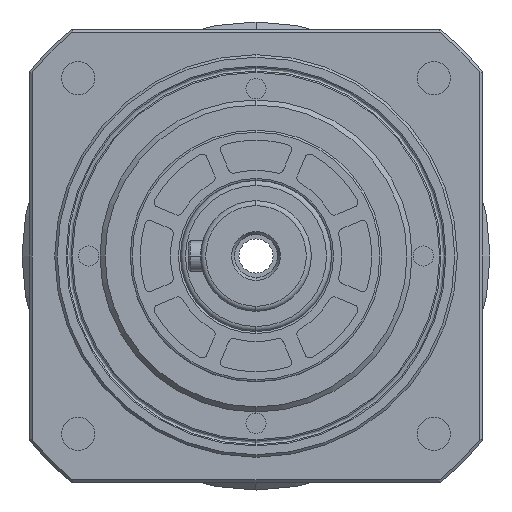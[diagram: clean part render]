
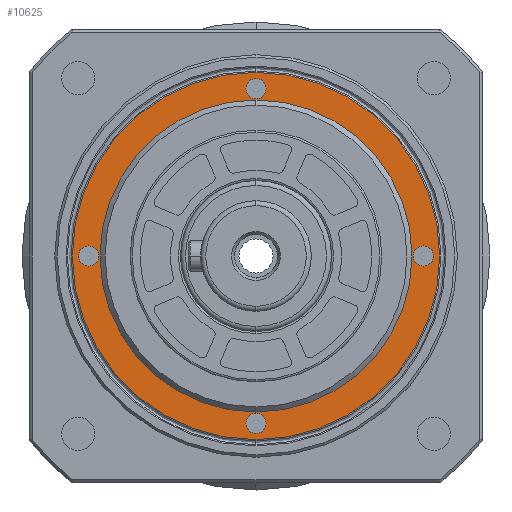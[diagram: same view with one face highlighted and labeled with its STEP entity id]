
A CAD part, left-side view. The second image highlights one B-rep face of the part: STEP entity #10625.
In plain terms, the highlighted planar face has unit normal (-1, 0, 0).
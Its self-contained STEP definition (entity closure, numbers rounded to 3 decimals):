
#64 = CIRCLE ( 'NONE', #9296, 36.5 ) ;
#65 = CIRCLE ( 'NONE', #9295, 2. ) ;
#70 = CIRCLE ( 'NONE', #9293, 2. ) ;
#71 = CIRCLE ( 'NONE', #9292, 2. ) ;
#73 = CIRCLE ( 'NONE', #9290, 2. ) ;
#162 = CIRCLE ( 'NONE', #9301, 31. ) ;
#539 = ORIENTED_EDGE ( 'NONE', *, *, #14506, .F. ) ;
#540 = ORIENTED_EDGE ( 'NONE', *, *, #14944, .F. ) ;
#541 = ORIENTED_EDGE ( 'NONE', *, *, #14503, .F. ) ;
#542 = ORIENTED_EDGE ( 'NONE', *, *, #14957, .F. ) ;
#543 = ORIENTED_EDGE ( 'NONE', *, *, #14504, .F. ) ;
#544 = ORIENTED_EDGE ( 'NONE', *, *, #14940, .F. ) ;
#545 = ORIENTED_EDGE ( 'NONE', *, *, #14501, .F. ) ;
#546 = ORIENTED_EDGE ( 'NONE', *, *, #14961, .F. ) ;
#547 = ORIENTED_EDGE ( 'NONE', *, *, #14500, .T. ) ;
#548 = ORIENTED_EDGE ( 'NONE', *, *, #14963, .T. ) ;
#549 = ORIENTED_EDGE ( 'NONE', *, *, #14493, .T. ) ;
#550 = ORIENTED_EDGE ( 'NONE', *, *, #14969, .T. ) ;
#1782 = PLANE ( 'NONE',  #9510 ) ;
#1785 = CARTESIAN_POINT ( 'NONE',  ( 37.675, 33.422, 0. ) ) ;
#1787 = DIRECTION ( 'NONE',  ( -1., 0., 0. ) ) ;
#1789 = DIRECTION ( 'NONE',  ( 0., 0., 1. ) ) ;
#2829 = DIRECTION ( 'NONE',  ( -1., 0., 0. ) ) ;
#2830 = CARTESIAN_POINT ( 'NONE',  ( 37.675, 35.672, 0. ) ) ;
#2835 = DIRECTION ( 'NONE',  ( 0., 0., 1. ) ) ;
#2843 = DIRECTION ( 'NONE',  ( 0., 0., 1. ) ) ;
#2845 = DIRECTION ( 'NONE',  ( -1., 0., 0. ) ) ;
#2846 = CARTESIAN_POINT ( 'NONE',  ( 37.675, -30.828, 0. ) ) ;
#2847 = CARTESIAN_POINT ( 'NONE',  ( 37.675, 2.422, 0. ) ) ;
#2848 = DIRECTION ( 'NONE',  ( -1., 0., 0. ) ) ;
#2849 = DIRECTION ( 'NONE',  ( 0., 0., 1. ) ) ;
#2851 = CARTESIAN_POINT ( 'NONE',  ( 37.675, 2.422, -33.25 ) ) ;
#2852 = DIRECTION ( 'NONE',  ( 0., 0., 1. ) ) ;
#2855 = DIRECTION ( 'NONE',  ( -1., 0., 0. ) ) ;
#2858 = CARTESIAN_POINT ( 'NONE',  ( 37.675, 2.422, 33.25 ) ) ;
#2859 = DIRECTION ( 'NONE',  ( -1., 0., 0. ) ) ;
#2860 = DIRECTION ( 'NONE',  ( 0., 0., 1. ) ) ;
#2879 = DIRECTION ( 'NONE',  ( 0., 0., -1. ) ) ;
#2881 = DIRECTION ( 'NONE',  ( 1., 0., 0. ) ) ;
#2883 = CARTESIAN_POINT ( 'NONE',  ( 37.675, 2.422, 0. ) ) ;
#3136 = FACE_BOUND ( 'NONE', #11335, .T. ) ;
#3141 = FACE_BOUND ( 'NONE', #11064, .T. ) ;
#3143 = FACE_BOUND ( 'NONE', #11049, .T. ) ;
#3144 = FACE_OUTER_BOUND ( 'NONE', #11034, .T. ) ;
#3146 = FACE_BOUND ( 'NONE', #10647, .T. ) ;
#3147 = FACE_BOUND ( 'NONE', #11342, .T. ) ;
#3768 = CARTESIAN_POINT ( 'NONE',  ( 37.675, 2.422, -31.25 ) ) ;
#3835 = CARTESIAN_POINT ( 'NONE',  ( 37.675, 2.422, 35.25 ) ) ;
#3905 = CARTESIAN_POINT ( 'NONE',  ( 37.675, 35.672, -2. ) ) ;
#4072 = CARTESIAN_POINT ( 'NONE',  ( 37.675, 2.422, 31. ) ) ;
#4228 = CIRCLE ( 'NONE', #9086, 31. ) ;
#4260 = CIRCLE ( 'NONE', #9090, 36.5 ) ;
#4263 = CIRCLE ( 'NONE', #9096, 2. ) ;
#4274 = CIRCLE ( 'NONE', #9091, 2. ) ;
#4283 = CIRCLE ( 'NONE', #9093, 2. ) ;
#4330 = CIRCLE ( 'NONE', #9094, 2. ) ;
#7016 = VERTEX_POINT ( 'NONE', #4072 ) ;
#7159 = VERTEX_POINT ( 'NONE', #3835 ) ;
#7213 = VERTEX_POINT ( 'NONE', #3905 ) ;
#7255 = VERTEX_POINT ( 'NONE', #3768 ) ;
#7314 = VERTEX_POINT ( 'NONE', #14215 ) ;
#7324 = VERTEX_POINT ( 'NONE', #14204 ) ;
#7326 = VERTEX_POINT ( 'NONE', #14206 ) ;
#7385 = VERTEX_POINT ( 'NONE', #14160 ) ;
#7404 = VERTEX_POINT ( 'NONE', #14144 ) ;
#7440 = VERTEX_POINT ( 'NONE', #13964 ) ;
#7456 = VERTEX_POINT ( 'NONE', #13960 ) ;
#7540 = VERTEX_POINT ( 'NONE', #13939 ) ;
#9086 = AXIS2_PLACEMENT_3D ( 'NONE', #9952, #9954, #9957 ) ;
#9090 = AXIS2_PLACEMENT_3D ( 'NONE', #9992, #9980, #9976 ) ;
#9091 = AXIS2_PLACEMENT_3D ( 'NONE', #10018, #10023, #10022 ) ;
#9093 = AXIS2_PLACEMENT_3D ( 'NONE', #10042, #10048, #10049 ) ;
#9094 = AXIS2_PLACEMENT_3D ( 'NONE', #10188, #10190, #10177 ) ;
#9096 = AXIS2_PLACEMENT_3D ( 'NONE', #10062, #10191, #10178 ) ;
#9290 = AXIS2_PLACEMENT_3D ( 'NONE', #2830, #2829, #2835 ) ;
#9292 = AXIS2_PLACEMENT_3D ( 'NONE', #2846, #2845, #2843 ) ;
#9293 = AXIS2_PLACEMENT_3D ( 'NONE', #2858, #2859, #2860 ) ;
#9295 = AXIS2_PLACEMENT_3D ( 'NONE', #2851, #2855, #2852 ) ;
#9296 = AXIS2_PLACEMENT_3D ( 'NONE', #2847, #2848, #2849 ) ;
#9301 = AXIS2_PLACEMENT_3D ( 'NONE', #2883, #2881, #2879 ) ;
#9510 = AXIS2_PLACEMENT_3D ( 'NONE', #1785, #1787, #1789 ) ;
#9952 = CARTESIAN_POINT ( 'NONE',  ( 37.675, 2.422, 0. ) ) ;
#9954 = DIRECTION ( 'NONE',  ( 1., 0., 0. ) ) ;
#9957 = DIRECTION ( 'NONE',  ( 0., 0., -1. ) ) ;
#9976 = DIRECTION ( 'NONE',  ( 0., 0., 1. ) ) ;
#9980 = DIRECTION ( 'NONE',  ( -1., 0., 0. ) ) ;
#9992 = CARTESIAN_POINT ( 'NONE',  ( 37.675, 2.422, 0. ) ) ;
#10018 = CARTESIAN_POINT ( 'NONE',  ( 37.675, 2.422, -33.25 ) ) ;
#10022 = DIRECTION ( 'NONE',  ( 0., 0., 1. ) ) ;
#10023 = DIRECTION ( 'NONE',  ( -1., 0., 0. ) ) ;
#10042 = CARTESIAN_POINT ( 'NONE',  ( 37.675, 2.422, 33.25 ) ) ;
#10048 = DIRECTION ( 'NONE',  ( -1., 0., 0. ) ) ;
#10049 = DIRECTION ( 'NONE',  ( 0., 0., 1. ) ) ;
#10062 = CARTESIAN_POINT ( 'NONE',  ( 37.675, -30.828, 0. ) ) ;
#10177 = DIRECTION ( 'NONE',  ( 0., 0., 1. ) ) ;
#10178 = DIRECTION ( 'NONE',  ( 0., 0., 1. ) ) ;
#10188 = CARTESIAN_POINT ( 'NONE',  ( 37.675, 35.672, 0. ) ) ;
#10190 = DIRECTION ( 'NONE',  ( -1., 0., 0. ) ) ;
#10191 = DIRECTION ( 'NONE',  ( -1., 0., 0. ) ) ;
#10625 = ADVANCED_FACE ( 'NONE', ( #3146, #3147, #3141, #3143, #3144, #3136 ), #1782, .T. ) ;
#10647 = EDGE_LOOP ( 'NONE', ( #539, #540 ) ) ;
#11034 = EDGE_LOOP ( 'NONE', ( #547, #548 ) ) ;
#11049 = EDGE_LOOP ( 'NONE', ( #545, #546 ) ) ;
#11064 = EDGE_LOOP ( 'NONE', ( #543, #544 ) ) ;
#11335 = EDGE_LOOP ( 'NONE', ( #549, #550 ) ) ;
#11342 = EDGE_LOOP ( 'NONE', ( #541, #542 ) ) ;
#13939 = CARTESIAN_POINT ( 'NONE',  ( 37.675, 2.422, -31. ) ) ;
#13960 = CARTESIAN_POINT ( 'NONE',  ( 37.675, 2.422, -35.25 ) ) ;
#13964 = CARTESIAN_POINT ( 'NONE',  ( 37.675, 35.672, 2. ) ) ;
#14144 = CARTESIAN_POINT ( 'NONE',  ( 37.675, 2.422, 36.5 ) ) ;
#14160 = CARTESIAN_POINT ( 'NONE',  ( 37.675, -30.828, 2. ) ) ;
#14204 = CARTESIAN_POINT ( 'NONE',  ( 37.675, -30.828, -2. ) ) ;
#14206 = CARTESIAN_POINT ( 'NONE',  ( 37.675, 2.422, -36.5 ) ) ;
#14215 = CARTESIAN_POINT ( 'NONE',  ( 37.675, 2.422, 31.25 ) ) ;
#14493 = EDGE_CURVE ( 'NONE', #7540, #7016, #162, .T. ) ;
#14500 = EDGE_CURVE ( 'NONE', #7326, #7404, #64, .T. ) ;
#14501 = EDGE_CURVE ( 'NONE', #7255, #7456, #65, .T. ) ;
#14503 = EDGE_CURVE ( 'NONE', #7159, #7314, #70, .T. ) ;
#14504 = EDGE_CURVE ( 'NONE', #7385, #7324, #71, .T. ) ;
#14506 = EDGE_CURVE ( 'NONE', #7440, #7213, #73, .T. ) ;
#14940 = EDGE_CURVE ( 'NONE', #7324, #7385, #4263, .T. ) ;
#14944 = EDGE_CURVE ( 'NONE', #7213, #7440, #4330, .T. ) ;
#14957 = EDGE_CURVE ( 'NONE', #7314, #7159, #4283, .T. ) ;
#14961 = EDGE_CURVE ( 'NONE', #7456, #7255, #4274, .T. ) ;
#14963 = EDGE_CURVE ( 'NONE', #7404, #7326, #4260, .T. ) ;
#14969 = EDGE_CURVE ( 'NONE', #7016, #7540, #4228, .T. ) ;
